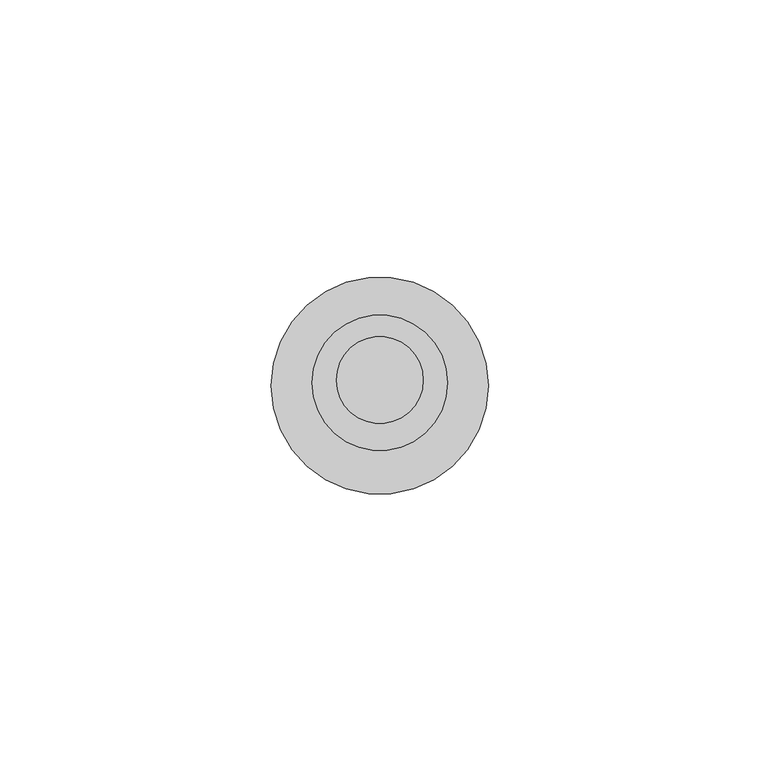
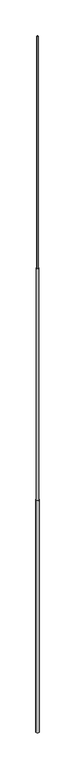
"""IFC4 building model written with IfcOpenShell, lengths in millimetres: proxy geometry, КНС_МачтаМолниеприемная_DKC : NL9000_СтальНержавеющая_9м."""

from ifc_helpers import new_model, si_unit, point, frame, origin, origin_with_axes, origin_2d, place, context, project, spatial, circle_curve, trimmed, segment, composite_curve, outline, extrude, source, transform, mapped, element, save


def security_devices_4151b5aa(model_context):
    return source(origin(), model_context, "Body", "SweptSolid", [
        extrude(outline(composite_curve([segment(trimmed(circle_curve(origin_2d(), 8.0), [point((-8.0, 0.0))], [point((8.0, 0.0))], False, "CARTESIAN"), True, "CONTINUOUS"), segment(trimmed(circle_curve(origin_2d(), 8.0), [point((8.0, 0.0))], [point((-8.0, 0.0))], False, "CARTESIAN"), True, "CONTINUOUS")], self_intersect=False)), frame((0.0, 0.0, 6000.0), z_axis=(0.0, 0.0, 1.0), x_axis=(1.0, 0.0, 0.0)), (0.0, 0.0, 1.0), 3000.0),
        extrude(outline(composite_curve([segment(trimmed(circle_curve(origin_2d(), 12.5), [point((-12.5, 0.0))], [point((12.5, 0.0))], False, "CARTESIAN"), True, "CONTINUOUS"), segment(trimmed(circle_curve(origin_2d(), 12.5), [point((12.5, 0.0))], [point((-12.5, 0.0))], False, "CARTESIAN"), True, "CONTINUOUS")], self_intersect=False)), frame((0.0, 0.0, 3000.0), z_axis=(0.0, 0.0, 1.0), x_axis=(1.0, 0.0, 0.0)), (0.0, 0.0, 1.0), 3000.0),
        extrude(outline(composite_curve([segment(trimmed(circle_curve(origin_2d(), 20.0), [point((-20.0, 0.0))], [point((20.0, 0.0))], False, "CARTESIAN"), True, "CONTINUOUS"), segment(trimmed(circle_curve(origin_2d(), 20.0), [point((20.0, 0.0))], [point((-20.0, 0.0))], False, "CARTESIAN"), True, "CONTINUOUS")], self_intersect=False)), origin_with_axes(), (0.0, 0.0, 1.0), 3000.0),
    ])


if __name__ == "__main__":
    model = new_model("IFC4")
    model_context = context("Model", 3, world=origin())
    ifc_project = project(units=[si_unit("LENGTHUNIT", "METRE", prefix="MILLI")], contexts=[model_context])
    site = spatial("IfcSite", under=ifc_project)
    building = spatial("IfcBuilding", under=site)
    placement = place(None, origin())
    security_devices_shape = security_devices_4151b5aa(model_context)
    element("IfcBuildingElementProxy", 1, Name="КНС_МачтаМолниеприемная_DKC : NL9000_СтальНержавеющая_9м", ObjectType="КНС_МачтаМолниеприемная_DKC : NL9000_СтальНержавеющая_9м", at=placement, inside=building, context=model_context, shape_type="MappedRepresentation", body=[
        mapped(security_devices_shape, transform((0.0, 0.0, 0.0), x_axis=(1.0, 0.0, 0.0), y_axis=(0.0, 1.0, 0.0), z_axis=(0.0, 0.0, 1.0))),
    ])
    save(model, "model.ifc")
